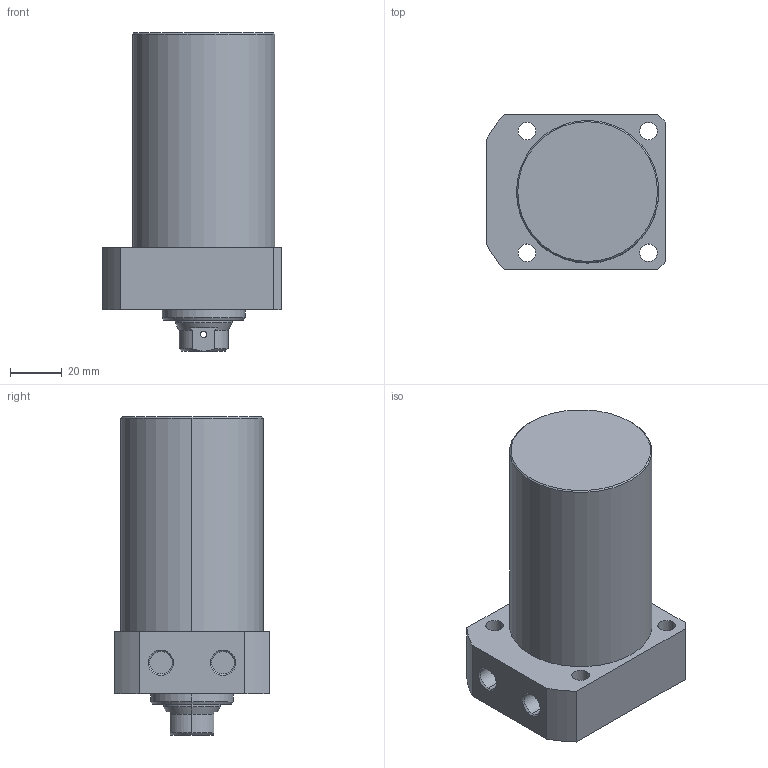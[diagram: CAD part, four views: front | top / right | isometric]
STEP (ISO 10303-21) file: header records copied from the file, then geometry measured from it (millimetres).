
FILE_DESCRIPTION (( 'STEP AP203' ), '1' );
FILE_NAME ('CLLR-055CB-070.STEP', '2019-12-19T07:53:33', ( '' ), ( '' ), 'SwSTEP 2.0', 'SolidWorks 2015', '' );
FILE_SCHEMA (( 'CONFIG_CONTROL_DESIGN' ));
Length unit declared in the file: millimetre
Products named in the file (1): CLLR-055CB-070
Bounding box: 69 x 60 x 123 mm (x, y, z)
Volume: 294790.9 mm3; surface area: 32567.9 mm2
Topology: 1 solids, 1 shells, 69 faces, 163 edges, 102 vertices
Faces by surface type: cylinder 33, plane 19, cone 17
Entity records: 2183 total; most frequent: CARTESIAN_POINT 453, DIRECTION 368, ORIENTED_EDGE 322, EDGE_CURVE 161, AXIS2_PLACEMENT_3D 149, VERTEX_POINT 102, EDGE_LOOP 89, CIRCLE 79
